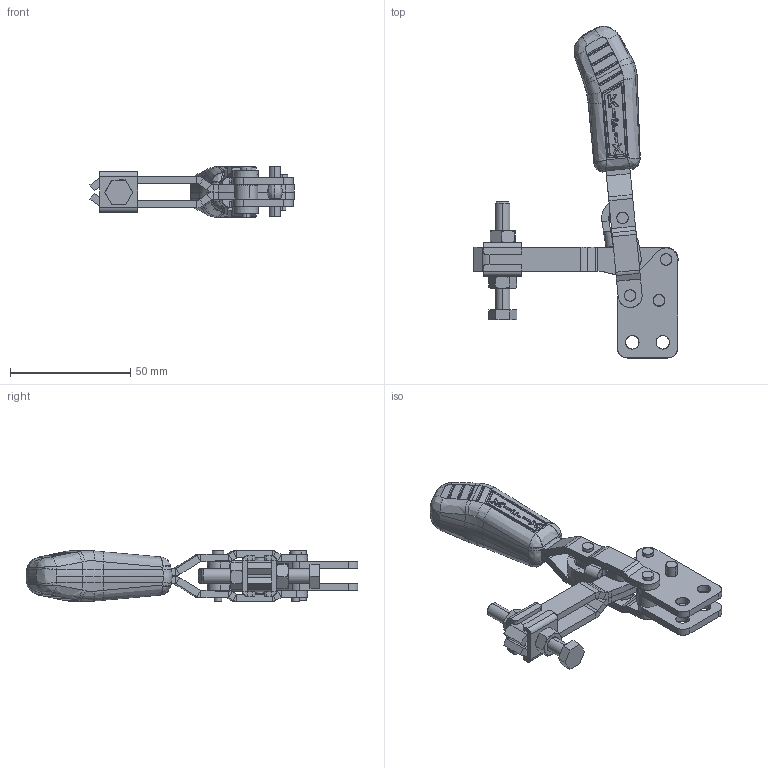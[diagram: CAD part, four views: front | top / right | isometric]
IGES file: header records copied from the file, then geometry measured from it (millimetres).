
Start section: SolidWorks IGES file using analytic representation for surfaces
Global section: file name: C:\Projetos\Grampos\KF-012\KF-012 RBL\KF-012 RBL.IGS; native system: SolidWorks 2018; preprocessor: SolidWorks 2018; author: Ricardo; date: 180314.135017; units: millimetre
Bounding box: 85 x 138.22 x 21.25 mm (x, y, z)
Surface area: 28979 mm2 (no closed solid volume)
Topology: 0 solids, 0 shells, 1095 faces, 10407 edges, 10354 vertices
Faces by surface type: bspline 650, revolution 445
